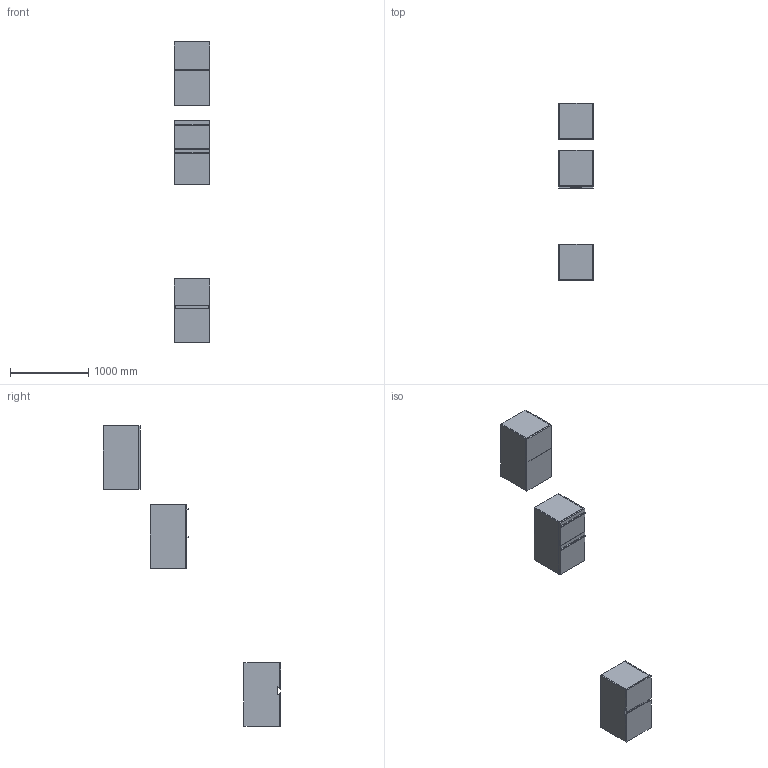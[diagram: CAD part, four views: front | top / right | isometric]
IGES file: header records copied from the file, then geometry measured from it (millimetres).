
Start section: Data from Parasolid IGES Translator 19.0.9, Copyright(c) 2006 Siemens PL M Software. All Rights Reserved.
Global section: file name: noorth-SI-H 81,2 D 47 W 45_8707.igs; native system: By Siemens PLM Incorporated; preprocessor: XPlus GENERIC/IGES 19.0.9; author: Noname; organization: Noname; date: 20200601.135701; units: metre
Bounding box: 450 x 2270 x 3842 mm (x, y, z)
Volume: 76384553.4 mm3; surface area: 11505698 mm2
Topology: 24 solids, 24 shells, 248 faces, 544 edges, 324 vertices
Faces by surface type: plane 164, extrusion 36, bspline 32, cylinder 16
